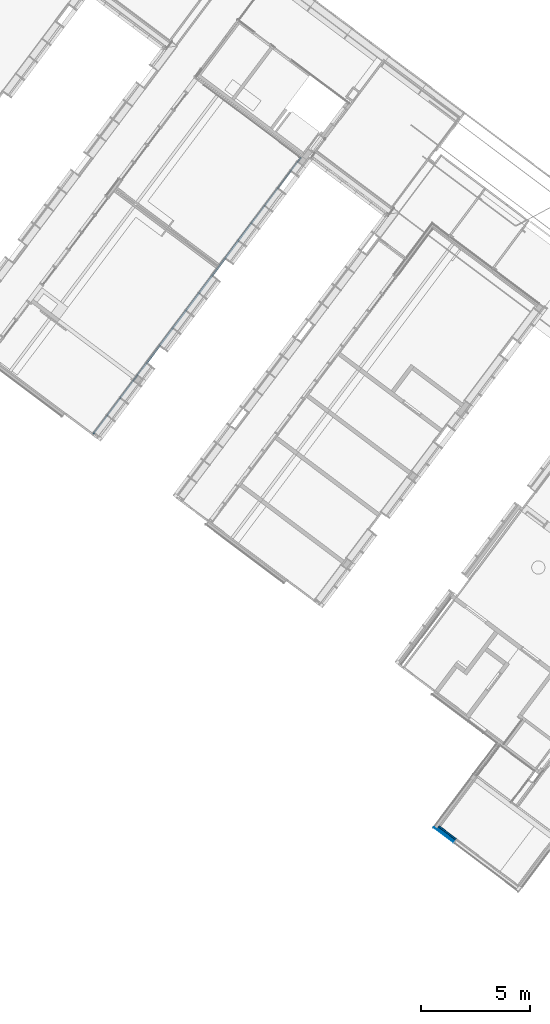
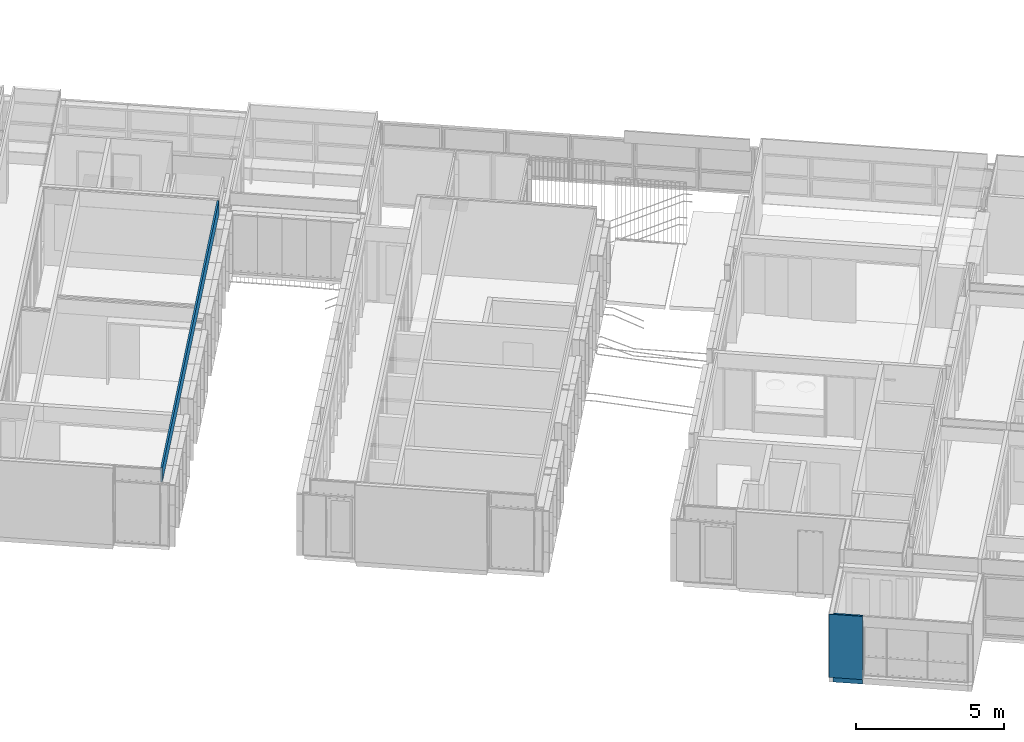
# One storey, part 117 of 243: 4 walls.
"""IFC2X3 building model written with IfcOpenShell, lengths in metres."""

from ifc_helpers import new_model, entity, si_unit, converted_unit, derived_unit, direction, frame, frame_2d, origin, place, context, subcontext, project, spatial, polyline, rectangle, extrude, clip, bounded_halfspace, material, layer, layer_set, layer_usage, type_object, element, save


model = new_model("IFC2X3")

# Units and contexts
model_context = context("Model", 3, precision=1e-05, world=origin(), true_north=direction((6.123031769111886e-17, 1.0)))
body_context = subcontext(model_context, "Body", "Model", "MODEL_VIEW")
ifc_project = project(units=[si_unit("LENGTHUNIT", "METRE"), si_unit("AREAUNIT", "SQUARE_METRE"), si_unit("VOLUMEUNIT", "CUBIC_METRE"), converted_unit("PLANEANGLEUNIT", "DEGREE", entity("IfcRatioMeasure", 0.017453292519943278), si_unit("PLANEANGLEUNIT", "RADIAN"), dimensions=[0, 0, 0, 0, 0, 0, 0]), si_unit("MASSUNIT", "GRAM", prefix="KILO"), derived_unit("MASSDENSITYUNIT", [(si_unit("MASSUNIT", "GRAM", prefix="KILO"), 1), (si_unit("LENGTHUNIT", "METRE"), -3)]), derived_unit("IONCONCENTRATIONUNIT", [(si_unit("MASSUNIT", "GRAM", prefix="KILO"), 1), (si_unit("LENGTHUNIT", "METRE"), -3)]), derived_unit("MOMENTOFINERTIAUNIT", [(si_unit("LENGTHUNIT", "METRE"), 4)]), si_unit("TIMEUNIT", "SECOND"), si_unit("FREQUENCYUNIT", "HERTZ"), si_unit("THERMODYNAMICTEMPERATUREUNIT", "DEGREE_CELSIUS"), derived_unit("THERMALTRANSMITTANCEUNIT", [(si_unit("MASSUNIT", "GRAM", prefix="KILO"), 1), (si_unit("THERMODYNAMICTEMPERATUREUNIT", "KELVIN"), -1), (si_unit("TIMEUNIT", "SECOND"), -3)]), derived_unit("THERMALCONDUCTANCEUNIT", [(si_unit("MASSUNIT", "GRAM", prefix="KILO"), 1), (si_unit("THERMODYNAMICTEMPERATUREUNIT", "KELVIN"), -1), (si_unit("TIMEUNIT", "SECOND"), -3), (si_unit("LENGTHUNIT", "METRE"), 1)]), derived_unit("VOLUMETRICFLOWRATEUNIT", [(si_unit("LENGTHUNIT", "METRE"), 3), (si_unit("TIMEUNIT", "SECOND"), -1)]), derived_unit("MASSFLOWRATEUNIT", [(si_unit("MASSUNIT", "GRAM", prefix="KILO"), 1), (si_unit("TIMEUNIT", "SECOND"), -1)]), derived_unit("ROTATIONALFREQUENCYUNIT", [(si_unit("TIMEUNIT", "SECOND"), -1)]), si_unit("ELECTRICCURRENTUNIT", "AMPERE"), si_unit("ELECTRICVOLTAGEUNIT", "VOLT"), si_unit("POWERUNIT", "WATT"), si_unit("FORCEUNIT", "NEWTON", prefix="KILO"), si_unit("ILLUMINANCEUNIT", "LUX"), si_unit("LUMINOUSFLUXUNIT", "LUMEN"), si_unit("LUMINOUSINTENSITYUNIT", "CANDELA"), derived_unit("USERDEFINED", [(si_unit("MASSUNIT", "GRAM", prefix="KILO"), -1), (si_unit("LENGTHUNIT", "METRE"), -2), (si_unit("TIMEUNIT", "SECOND"), 3), (si_unit("LUMINOUSFLUXUNIT", "LUMEN"), 1)]), derived_unit("USERDEFINED", [(si_unit("MASSUNIT", "GRAM", prefix="KILO"), 1), (si_unit("TIMEUNIT", "SECOND"), -3), (si_unit("LENGTHUNIT", "METRE"), 3), (si_unit("ELECTRICCURRENTUNIT", "AMPERE"), -2)]), derived_unit("SOUNDPOWERUNIT", [(si_unit("MASSUNIT", "GRAM", prefix="KILO"), 1), (si_unit("TIMEUNIT", "SECOND"), -3), (si_unit("LENGTHUNIT", "METRE"), 2)]), derived_unit("SOUNDPRESSUREUNIT", [(si_unit("MASSUNIT", "GRAM", prefix="KILO"), 1), (si_unit("LENGTHUNIT", "METRE"), -1), (si_unit("TIMEUNIT", "SECOND"), -2)]), derived_unit("LINEARVELOCITYUNIT", [(si_unit("LENGTHUNIT", "METRE"), 1), (si_unit("TIMEUNIT", "SECOND"), -1)]), si_unit("PRESSUREUNIT", "PASCAL"), derived_unit("USERDEFINED", [(si_unit("MASSUNIT", "GRAM", prefix="KILO"), 1), (si_unit("LENGTHUNIT", "METRE"), -2), (si_unit("TIMEUNIT", "SECOND"), -2)]), derived_unit("LINEARFORCEUNIT", [(si_unit("MASSUNIT", "GRAM", prefix="KILO"), 1), (si_unit("TIMEUNIT", "SECOND"), -2)]), derived_unit("PLANARFORCEUNIT", [(si_unit("MASSUNIT", "GRAM", prefix="KILO"), 1), (si_unit("LENGTHUNIT", "METRE"), -1), (si_unit("TIMEUNIT", "SECOND"), -2)]), derived_unit("SPECIFICHEATCAPACITYUNIT", [(si_unit("THERMODYNAMICTEMPERATUREUNIT", "KELVIN"), -1), (si_unit("LENGTHUNIT", "METRE"), 2), (si_unit("TIMEUNIT", "SECOND"), -2)]), derived_unit("HEATINGVALUEUNIT", [(si_unit("LENGTHUNIT", "METRE"), 2), (si_unit("TIMEUNIT", "SECOND"), -2)]), derived_unit("VAPORPERMEABILITYUNIT", [(si_unit("LENGTHUNIT", "METRE"), -1), (si_unit("TIMEUNIT", "SECOND"), 1)]), derived_unit("DYNAMICVISCOSITYUNIT", [(si_unit("MASSUNIT", "GRAM", prefix="KILO"), 1), (si_unit("TIMEUNIT", "SECOND"), -1), (si_unit("LENGTHUNIT", "METRE"), -1)]), derived_unit("THERMALEXPANSIONCOEFFICIENTUNIT", [(si_unit("THERMODYNAMICTEMPERATUREUNIT", "KELVIN"), -1)]), derived_unit("MODULUSOFELASTICITYUNIT", [(si_unit("MASSUNIT", "GRAM", prefix="KILO"), 1), (si_unit("LENGTHUNIT", "METRE"), -1), (si_unit("TIMEUNIT", "SECOND"), -2)]), derived_unit("ISOTHERMALMOISTURECAPACITYUNIT", [(si_unit("LENGTHUNIT", "METRE"), 3), (si_unit("MASSUNIT", "GRAM", prefix="KILO"), -1)]), derived_unit("MOISTUREDIFFUSIVITYUNIT", [(si_unit("TIMEUNIT", "SECOND"), -1), (si_unit("LENGTHUNIT", "METRE"), 2)])], contexts=[model_context])

# Site, building, storey
site_placement = place(None, frame((0.0, 0.0, 235.0), z_axis=(0.0, 0.0, 1.0), x_axis=(-0.7996477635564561, 0.6004693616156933, 0.0)))
site = spatial("IfcSite", under=ifc_project, at=site_placement, Name="Default", CompositionType="ELEMENT")
building_placement = place(site_placement, origin())
building = spatial("IfcBuilding", under=site, at=building_placement, CompositionType="ELEMENT")
storey_placement = place(building_placement, origin())
storey = spatial("IfcBuildingStorey", under=building, at=storey_placement, Name="P0- Escola", CompositionType="ELEMENT", Elevation=0.0)

# Walls
ifc_material_1 = material(Name="_Ceràmica- ENV")
ifc_layer_1 = layer(ifc_material_1, 0.14)
ifc_layer_set_1 = layer_set([ifc_layer_1], Name="Muro básico:ENV- Ceràmic- 14 cm")
ifc_layer_usage_1 = layer_usage(ifc_layer_set_1, "AXIS2", "NEGATIVE", 0.07)
wall_type_1 = type_object("IfcWallType", Name="Muro básico:ENV- Ceràmic- 14 cm", PredefinedType="STANDARD", material=ifc_layer_set_1)
wall_1_placement = place(storey_placement, frame((17.95514768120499, -15.390191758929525, -0.2), z_axis=(0.0, 0.0, 1.0), x_axis=(-1.0, 0.0, 0.0)))
element("IfcWallStandardCase", 1, at=wall_1_placement, inside=storey, type_object=wall_type_1, material=ifc_layer_usage_1, Name="Muro básico:ENV- Ceràmic- 14 cm", ObjectType="Muro básico:ENV- Ceràmic- 14 cm", context=body_context, shape_type="Clipping", body=[
    clip(extrude(rectangle(XDim=1.0020000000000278, YDim=0.13999999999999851, at=frame_2d((0.5010000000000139, 4.996003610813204e-16), x_axis=(-1.0, 0.0))), origin(), (0.0, 0.0, 1.0), 2.748000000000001), bounded_halfspace(frame((1.002000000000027, -0.040000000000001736, 2.4649999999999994), z_axis=(0.0, -1.0, 0.0), x_axis=(0.0, 0.0, 1.0)), True, frame((1.002000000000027, -0.040000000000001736, 2.4649999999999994), z_axis=(0.0, -1.0, 0.0), x_axis=(0.0, 0.0, 1.0)), polyline([(0.0, 0.0), (0.14000000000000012, 0.0), (0.14000000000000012, 1.0020000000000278), (0.0, 1.0020000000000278), (0.0, 0.0)]))),
])
ifc_material_2 = material(Name="_Guix laminat- ENV")
ifc_layer_2 = layer(ifc_material_2, 0.02)
ifc_material_3 = material(Name="_Aillament")
ifc_layer_3 = layer(ifc_material_3, 0.045)
ifc_layer_set_2 = layer_set([ifc_layer_2, ifc_layer_3], Name="Muro básico:REV- Guix Laminat Extradossat- Aillament- T1- 6,5 cm")
ifc_layer_usage_2 = layer_usage(ifc_layer_set_2, "AXIS2", "POSITIVE", -0.032499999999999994)
wall_type_2 = type_object("IfcWallType", Name="Muro básico:REV- Guix Laminat Extradossat- Aillament- T1- 6,5 cm", PredefinedType="STANDARD", material=ifc_layer_set_2)
wall_2_placement = place(storey_placement, frame((41.377647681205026, -36.17519175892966, 2.565), z_axis=(0.0, 0.0, 1.0), x_axis=(0.0, 1.0, 0.0)))
element("IfcWallStandardCase", 2, at=wall_2_placement, inside=storey, type_object=wall_type_2, material=ifc_layer_usage_2, Name="Muro básico:REV- Guix Laminat Extradossat- Aillament- T1- 6,5 cm", ObjectType="Muro básico:REV- Guix Laminat Extradossat- Aillament- T1- 6,5 cm", context=body_context, shape_type="SweptSolid", body=[
    extrude(rectangle(XDim=15.816250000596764, YDim=0.06500000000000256, at=frame_2d((7.908125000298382, 0.0), x_axis=(-1.0, 0.0))), origin(), (0.0, 0.0, 1.0), 0.5850000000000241),
])
ifc_layer_usage_3 = layer_usage(ifc_layer_set_2, "AXIS2", "NEGATIVE", 0.032499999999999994)
wall_3_placement = place(storey_placement, frame((17.95514768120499, -15.492691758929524, 0.0), z_axis=(0.0, 0.0, 1.0), x_axis=(-1.0, 0.0, 0.0)))
element("IfcWallStandardCase", 3, at=wall_3_placement, inside=storey, type_object=wall_type_2, material=ifc_layer_usage_3, Name="Muro básico:REV- Guix Laminat Extradossat- Aillament- T1- 6,5 cm", ObjectType="Muro básico:REV- Guix Laminat Extradossat- Aillament- T1- 6,5 cm", context=body_context, shape_type="SweptSolid", body=[
    extrude(rectangle(XDim=1.0020000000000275, YDim=0.06499999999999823, at=frame_2d((0.5010000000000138, 1.3877787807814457e-17), x_axis=(-1.0, 0.0))), origin(), (0.0, 0.0, 1.0), 2.2649999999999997),
])
ifc_material_4 = material(Name="_Enrajolat Gresite- REV- PAV")
ifc_layer_4 = layer(ifc_material_4, 0.01)
ifc_material_5 = material(Name="_Morter Base - REV")
ifc_layer_5 = layer(ifc_material_5, 0.015)
ifc_layer_set_3 = layer_set([ifc_layer_4, ifc_layer_5], Name="Muro básico:REV- Enrajolat peces pasta vitrea- T1- int- 2,5 cm")
ifc_layer_usage_4 = layer_usage(ifc_layer_set_3, "AXIS2", "POSITIVE", -0.0125)
wall_type_3 = type_object("IfcWallType", Name="Muro básico:REV- Enrajolat peces pasta vitrea- T1- int- 2,5 cm", PredefinedType="STANDARD", material=ifc_layer_set_3)
wall_4_placement = place(storey_placement, frame((18.095147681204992, -15.307691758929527, 0.0), z_axis=(0.0, 0.0, 1.0), x_axis=(-1.0, 0.0, 0.0)))
element("IfcWallStandardCase", 4, at=wall_4_placement, inside=storey, type_object=wall_type_3, material=ifc_layer_usage_4, Name="Muro básico:REV- Enrajolat peces pasta vitrea- T1- int- 2,5 cm", ObjectType="Muro básico:REV- Enrajolat peces pasta vitrea- T1- int- 2,5 cm", context=body_context, shape_type="SweptSolid", body=[
    extrude(rectangle(XDim=1.1420000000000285, YDim=0.02499999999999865, at=frame_2d((0.5710000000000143, -3.859759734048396e-16), x_axis=(-1.0, 0.0))), origin(), (0.0, 0.0, 1.0), 2.6000000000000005),
])

save(model, "model.ifc")
